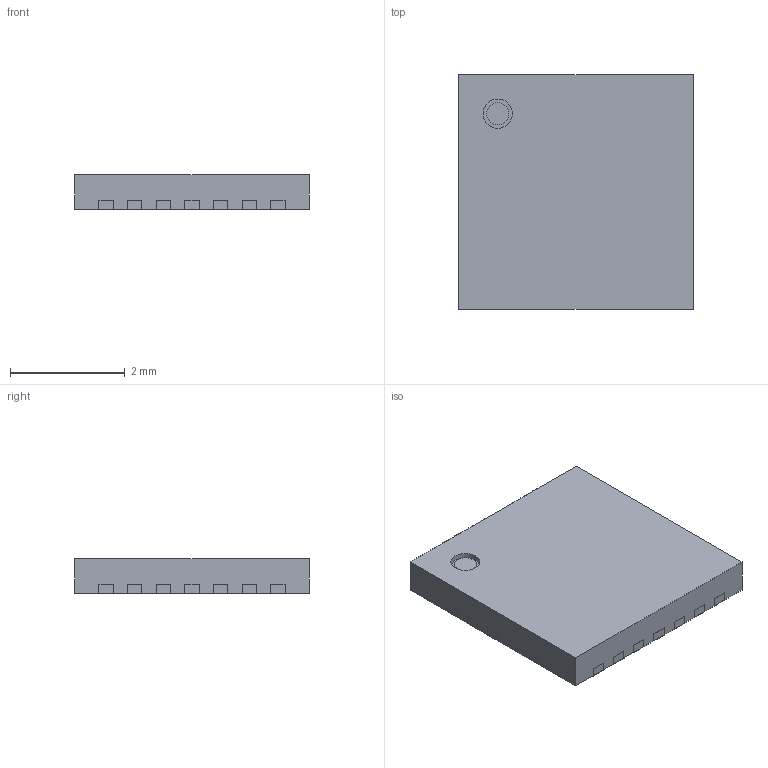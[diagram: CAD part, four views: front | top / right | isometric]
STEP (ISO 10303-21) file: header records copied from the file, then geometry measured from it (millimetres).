
FILE_DESCRIPTION (( 'STEP AP214' ), '1' );
FILE_NAME ('QFN28_4X4X0.60.STEP', '2024-09-17T07:50:57', ( '' ), ( '' ), 'SwSTEP 2.0', 'SolidWorks 2016', '' );
FILE_SCHEMA (( 'AUTOMOTIVE_DESIGN' ));
Length unit declared in the file: millimetre
Products named in the file (9): Thermal Shape; Pin Shape; Open CASCADE STEP translator 7.5 7.2.1; 2; 4; 3; Open CASCADE STEP translator 7.5 49.1; QFN28_4X4X0.60; Open CASCADE STEP translator 7.5 7.1
Assembly tree (33 placements, depth 3):
  QFN28_4X4X0.60
    Open CASCADE STEP translator 7.5 7.1
    Thermal Shape
    3  x4
    Pin Shape  x20
      2
    4  x4
    Open CASCADE STEP translator 7.5 7.2.1
    Open CASCADE STEP translator 7.5 49.1
Bounding box: 4.1 x 4.1 x 0.6 mm (x, y, z)
Volume: 10.1 mm3; surface area: 65 mm2
Topology: 31 solids, 32 shells, 253 faces, 569 edges, 380 vertices
Faces by surface type: plane 249, cylinder 4
Entity records: 2281 total; most frequent: CARTESIAN_POINT 291, DIRECTION 277, ORIENTED_EDGE 200, EDGE_CURVE 101, AXIS2_PLACEMENT_3D 93, LINE 91, VECTOR 91, VERTEX_POINT 68
